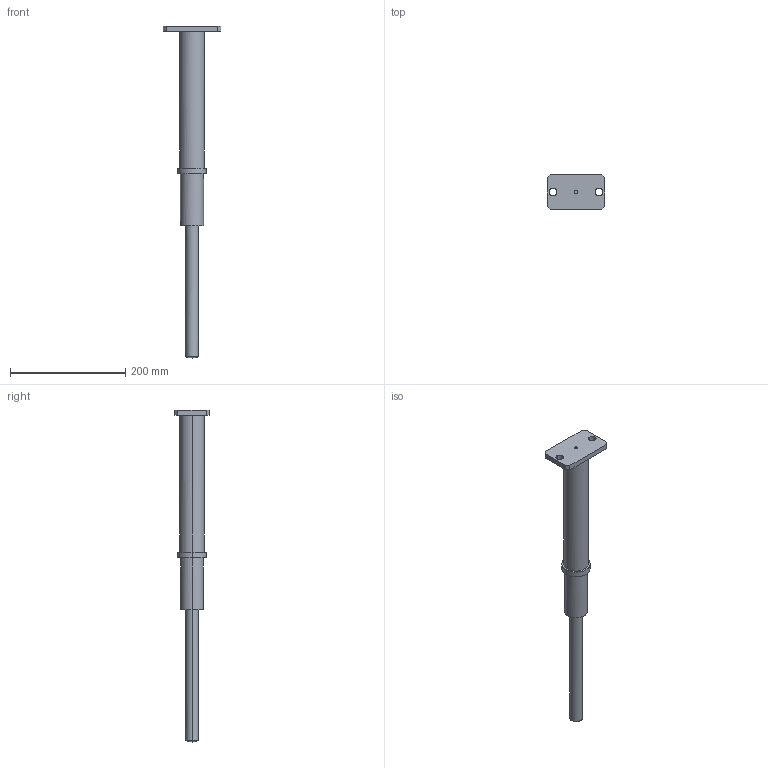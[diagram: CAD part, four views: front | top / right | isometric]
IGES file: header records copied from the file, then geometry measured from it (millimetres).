
Global section: file name: E:\UnigraphicsGraphicData\MISUMI_PRESS-PARTS\IGES\3d_papgs220-90_01663_r00.igs; native system: NX V5.0; preprocessor: UGS NX IGES V5.0; author: MISUMI; date: 20110105.162219; units: millimetre
Bounding box: 100 x 60 x 577 mm (x, y, z)
Surface area: 80065.2 mm2 (no closed solid volume)
Topology: 0 solids, 0 shells, 31 faces, 264 edges, 262 vertices
Faces by surface type: bspline 31
